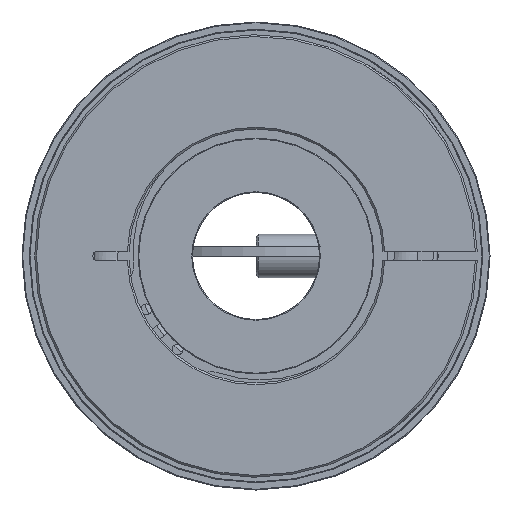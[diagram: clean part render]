
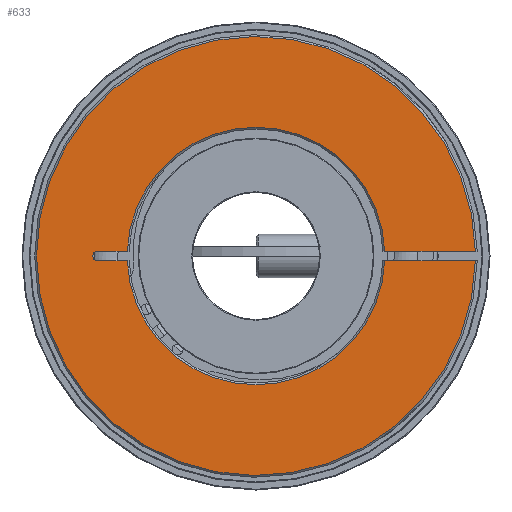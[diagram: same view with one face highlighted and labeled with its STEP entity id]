
A CAD part, left-side view. The second image highlights one B-rep face of the part: STEP entity #633.
In plain terms, the highlighted planar face has unit normal (-1, 0, 0).
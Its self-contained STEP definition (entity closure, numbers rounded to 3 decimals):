
#633 = ADVANCED_FACE( '', ( #1054 ), #1055, .F. );
#1054 = FACE_OUTER_BOUND( '', #1439, .T. );
#1055 = PLANE( '', #1440 );
#1439 = EDGE_LOOP( '', ( #2186, #2187, #2188, #2189, #2190, #2191, #2192, #2193 ) );
#1440 = AXIS2_PLACEMENT_3D( '', #2194, #2195, #2196 );
#2186 = ORIENTED_EDGE( '', *, *, #2888, .T. );
#2187 = ORIENTED_EDGE( '', *, *, #2874, .T. );
#2188 = ORIENTED_EDGE( '', *, *, #2870, .T. );
#2189 = ORIENTED_EDGE( '', *, *, #2878, .T. );
#2190 = ORIENTED_EDGE( '', *, *, #2893, .T. );
#2191 = ORIENTED_EDGE( '', *, *, #2894, .T. );
#2192 = ORIENTED_EDGE( '', *, *, #2885, .T. );
#2193 = ORIENTED_EDGE( '', *, *, #2890, .T. );
#2194 = CARTESIAN_POINT( '', ( -42., 61., 0. ) );
#2195 = DIRECTION( '', ( 1., 0., 0. ) );
#2196 = DIRECTION( '', ( 0., 1., 0. ) );
#2870 = EDGE_CURVE( '', #3226, #3224, #3227, .T. );
#2874 = EDGE_CURVE( '', #3231, #3226, #3233, .F. );
#2878 = EDGE_CURVE( '', #3224, #3236, #3239, .T. );
#2885 = EDGE_CURVE( '', #3250, #3248, #3251, .T. );
#2888 = EDGE_CURVE( '', #3254, #3231, #3255, .T. );
#2890 = EDGE_CURVE( '', #3248, #3254, #3257, .T. );
#2893 = EDGE_CURVE( '', #3236, #3259, #3261, .T. );
#2894 = EDGE_CURVE( '', #3259, #3250, #3262, .T. );
#3224 = VERTEX_POINT( '', #3783 );
#3226 = VERTEX_POINT( '', #3788 );
#3227 = LINE( '', #3789, #3790 );
#3231 = VERTEX_POINT( '', #3797 );
#3233 = CIRCLE( '', #3802, 60.5 );
#3236 = VERTEX_POINT( '', #3811 );
#3239 = CIRCLE( '', #3817, 35.5 );
#3248 = VERTEX_POINT( '', #3827 );
#3250 = VERTEX_POINT( '', #3832 );
#3251 = LINE( '', #3833, #3834 );
#3254 = VERTEX_POINT( '', #3841 );
#3255 = LINE( '', #3842, #3843 );
#3257 = CIRCLE( '', #3848, 35.5 );
#3259 = VERTEX_POINT( '', #3853 );
#3261 = LINE( '', #3856, #3857 );
#3262 = CIRCLE( '', #3858, 1.3 );
#3783 = CARTESIAN_POINT( '', ( -42., -35.476, -1.3 ) );
#3788 = CARTESIAN_POINT( '', ( -42., -60.486, -1.3 ) );
#3789 = CARTESIAN_POINT( '', ( -42., 61., -1.3 ) );
#3790 = VECTOR( '', #4214, 1000. );
#3797 = CARTESIAN_POINT( '', ( -42., -60.486, 1.3 ) );
#3802 = AXIS2_PLACEMENT_3D( '', #4218, #4219, #4220 );
#3811 = CARTESIAN_POINT( '', ( -42., 35.476, -1.3 ) );
#3817 = AXIS2_PLACEMENT_3D( '', #4221, #4222, #4223 );
#3827 = CARTESIAN_POINT( '', ( -42., 35.476, 1.3 ) );
#3832 = CARTESIAN_POINT( '', ( -42., 43.7, 1.3 ) );
#3833 = CARTESIAN_POINT( '', ( -42., 61., 1.3 ) );
#3834 = VECTOR( '', #4237, 1000. );
#3841 = CARTESIAN_POINT( '', ( -42., -35.476, 1.3 ) );
#3842 = CARTESIAN_POINT( '', ( -42., 61., 1.3 ) );
#3843 = VECTOR( '', #4239, 1000. );
#3848 = AXIS2_PLACEMENT_3D( '', #4240, #4241, #4242 );
#3853 = CARTESIAN_POINT( '', ( -42., 43.7, -1.3 ) );
#3856 = CARTESIAN_POINT( '', ( -42., 61., -1.3 ) );
#3857 = VECTOR( '', #4244, 1000. );
#3858 = AXIS2_PLACEMENT_3D( '', #4245, #4246, #4247 );
#4214 = DIRECTION( '', ( 0., 1., 0. ) );
#4218 = CARTESIAN_POINT( '', ( -42., 0., 0. ) );
#4219 = DIRECTION( '', ( 1., 0., 0. ) );
#4220 = DIRECTION( '', ( 0., 0., -1. ) );
#4221 = CARTESIAN_POINT( '', ( -42., 0., 0. ) );
#4222 = DIRECTION( '', ( 1., 0., 0. ) );
#4223 = DIRECTION( '', ( 0., 0., -1. ) );
#4237 = DIRECTION( '', ( 0., -1., 0. ) );
#4239 = DIRECTION( '', ( 0., -1., 0. ) );
#4240 = CARTESIAN_POINT( '', ( -42., 0., 0. ) );
#4241 = DIRECTION( '', ( 1., 0., 0. ) );
#4242 = DIRECTION( '', ( 0., 0., -1. ) );
#4244 = DIRECTION( '', ( 0., 1., 0. ) );
#4245 = CARTESIAN_POINT( '', ( -42., 43.7, 0. ) );
#4246 = DIRECTION( '', ( 1., 0., 0. ) );
#4247 = DIRECTION( '', ( 0., 0., -1. ) );
